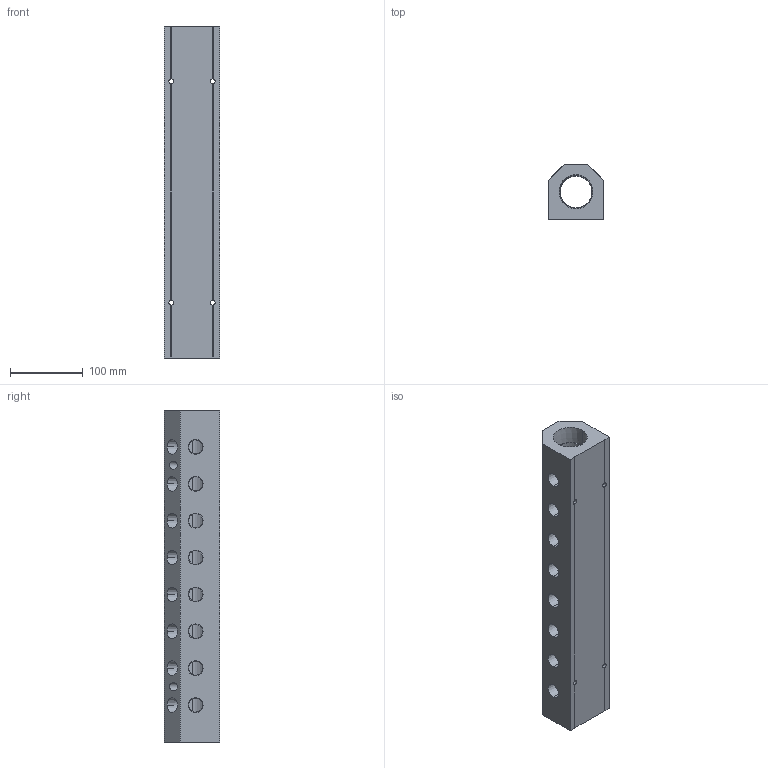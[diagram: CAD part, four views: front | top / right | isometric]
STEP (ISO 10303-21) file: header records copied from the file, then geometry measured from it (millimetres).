
FILE_DESCRIPTION (( 'STEP AP214' ), '1' );
FILE_NAME ('ALM8AB-N8N24-457R.step', '2022-02-07T09:23:31', ( '' ), ( '' ), 'SwSTEP 2.0', 'SolidWorks 2020', '' );
FILE_SCHEMA (( 'AUTOMOTIVE_DESIGN' ));
Length unit declared in the file: millimetre
Products named in the file (1): ALM8AB-N8N24-457R
Bounding box: 76.2 x 76.2 x 457 mm (x, y, z)
Volume: 1619283.8 mm3; surface area: 211272.1 mm2
Topology: 1 solids, 1 shells, 340 faces, 922 edges, 612 vertices
Faces by surface type: plane 220, bspline 66, cone 36, cylinder 18
Entity records: 19268 total; most frequent: CARTESIAN_POINT 7933, ORIENTED_EDGE 1844, DIRECTION 1344, EDGE_CURVE 922, VECTOR 658, LINE 658, VERTEX_POINT 612, EDGE_LOOP 410
